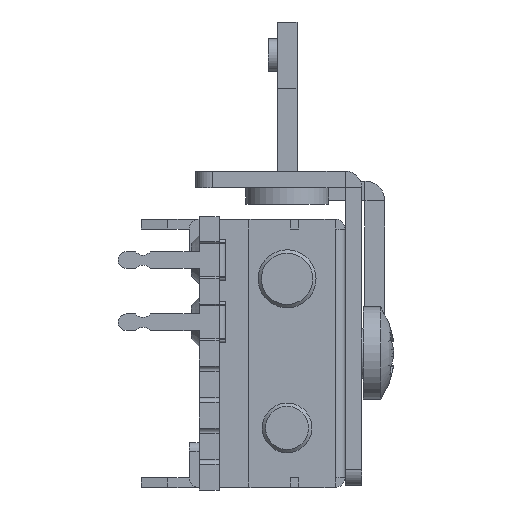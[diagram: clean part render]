
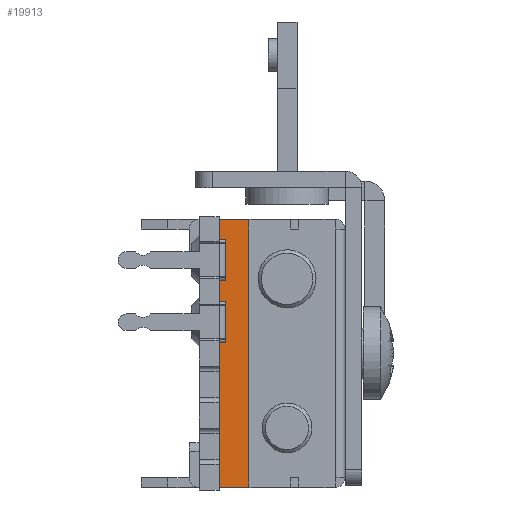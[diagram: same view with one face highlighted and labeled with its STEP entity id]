
A CAD part, left-side view. The second image highlights one B-rep face of the part: STEP entity #19913.
In plain terms, the highlighted planar face has unit normal (-1, 0, 0).
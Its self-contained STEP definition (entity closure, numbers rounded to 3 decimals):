
#264 = PLANE('',#265);
#265 = AXIS2_PLACEMENT_3D('',#266,#267,#268);
#266 = CARTESIAN_POINT('',(63.6,-3.5,-2.9));
#267 = DIRECTION('',(0.,0.,1.));
#268 = DIRECTION('',(-1.,0.,0.));
#320 = PLANE('',#321);
#321 = AXIS2_PLACEMENT_3D('',#322,#323,#324);
#322 = CARTESIAN_POINT('',(-63.6,-3.5,-19.1));
#323 = DIRECTION('',(0.,0.,-1.));
#324 = DIRECTION('',(1.,0.,0.));
#3762 = VERTEX_POINT('',#3763);
#3763 = CARTESIAN_POINT('',(-58.45,2.3,
    -19.1));
#3776 = PLANE('',#3777);
#3777 = AXIS2_PLACEMENT_3D('',#3778,#3779,#3780);
#3778 = CARTESIAN_POINT('',(-67.457,2.3,
    1.6));
#3779 = DIRECTION('',(0.,-1.,0.));
#3780 = DIRECTION('',(1.,0.,0.));
#3787 = EDGE_CURVE('',#3788,#3762,#3790,.T.);
#3788 = VERTEX_POINT('',#3789);
#3789 = CARTESIAN_POINT('',(-58.45,4.1,
    -19.1));
#3790 = SURFACE_CURVE('',#3791,(#3795,#3801),.PCURVE_S1.);
#3791 = LINE('',#3792,#3793);
#3792 = CARTESIAN_POINT('',(-58.45,-0.6,
    -19.1));
#3793 = VECTOR('',#3794,1.);
#3794 = DIRECTION('',(0.,-1.,0.));
#3795 = PCURVE('',#320,#3796);
#3796 = DEFINITIONAL_REPRESENTATION('',(#3797),#3800);
#3797 = B_SPLINE_CURVE_WITH_KNOTS('',1,(#3798,#3799),.UNSPECIFIED.,.F.,
  .F.,(2,2),(-9.4,-2.9),.PIECEWISE_BEZIER_KNOTS.);
#3798 = CARTESIAN_POINT('',(5.15,-12.3));
#3799 = CARTESIAN_POINT('',(5.15,-5.8));
#3800 = ( GEOMETRIC_REPRESENTATION_CONTEXT(2) 
PARAMETRIC_REPRESENTATION_CONTEXT() REPRESENTATION_CONTEXT('2D SPACE',''
  ) );
#3801 = PCURVE('',#3802,#3807);
#3802 = PLANE('',#3803);
#3803 = AXIS2_PLACEMENT_3D('',#3804,#3805,#3806);
#3804 = CARTESIAN_POINT('',(-58.45,3.2,-11.));
#3805 = DIRECTION('',(-1.,0.,-0.));
#3806 = DIRECTION('',(0.,1.,0.));
#3807 = DEFINITIONAL_REPRESENTATION('',(#3808),#3812);
#3808 = LINE('',#3809,#3810);
#3809 = CARTESIAN_POINT('',(-3.8,8.1));
#3810 = VECTOR('',#3811,1.);
#3811 = DIRECTION('',(-1.,0.));
#3812 = ( GEOMETRIC_REPRESENTATION_CONTEXT(2) 
PARAMETRIC_REPRESENTATION_CONTEXT() REPRESENTATION_CONTEXT('2D SPACE',''
  ) );
#3829 = PLANE('',#3830);
#3830 = AXIS2_PLACEMENT_3D('',#3831,#3832,#3833);
#3831 = CARTESIAN_POINT('',(0.,4.1,-11.));
#3832 = DIRECTION('',(0.,-1.,0.));
#3833 = DIRECTION('',(1.,0.,0.));
#5792 = PLANE('',#5793);
#5793 = AXIS2_PLACEMENT_3D('',#5794,#5795,#5796);
#5794 = CARTESIAN_POINT('',(0.,2.3,-11.));
#5795 = DIRECTION('',(0.,1.,0.));
#5796 = DIRECTION('',(1.,0.,0.));
#7692 = VERTEX_POINT('',#7693);
#7693 = CARTESIAN_POINT('',(-58.45,4.1,
    -2.9));
#7713 = EDGE_CURVE('',#7714,#7692,#7716,.T.);
#7714 = VERTEX_POINT('',#7715);
#7715 = CARTESIAN_POINT('',(-58.45,2.3,
    -2.9));
#7716 = SURFACE_CURVE('',#7717,(#7721,#7727),.PCURVE_S1.);
#7717 = LINE('',#7718,#7719);
#7718 = CARTESIAN_POINT('',(-58.45,-0.6,
    -2.9));
#7719 = VECTOR('',#7720,1.);
#7720 = DIRECTION('',(0.,1.,0.));
#7721 = PCURVE('',#264,#7722);
#7722 = DEFINITIONAL_REPRESENTATION('',(#7723),#7726);
#7723 = B_SPLINE_CURVE_WITH_KNOTS('',1,(#7724,#7725),.UNSPECIFIED.,.F.,
  .F.,(2,2),(2.9,9.4),.PIECEWISE_BEZIER_KNOTS.);
#7724 = CARTESIAN_POINT('',(122.05,-5.8));
#7725 = CARTESIAN_POINT('',(122.05,-12.3));
#7726 = ( GEOMETRIC_REPRESENTATION_CONTEXT(2) 
PARAMETRIC_REPRESENTATION_CONTEXT() REPRESENTATION_CONTEXT('2D SPACE',''
  ) );
#7727 = PCURVE('',#3802,#7728);
#7728 = DEFINITIONAL_REPRESENTATION('',(#7729),#7733);
#7729 = LINE('',#7730,#7731);
#7730 = CARTESIAN_POINT('',(-3.8,-8.1));
#7731 = VECTOR('',#7732,1.);
#7732 = DIRECTION('',(1.,0.));
#7733 = ( GEOMETRIC_REPRESENTATION_CONTEXT(2) 
PARAMETRIC_REPRESENTATION_CONTEXT() REPRESENTATION_CONTEXT('2D SPACE',''
  ) );
#7750 = PLANE('',#7751);
#7751 = AXIS2_PLACEMENT_3D('',#7752,#7753,#7754);
#7752 = CARTESIAN_POINT('',(-67.457,2.3,
    1.6));
#7753 = DIRECTION('',(0.,-1.,0.));
#7754 = DIRECTION('',(1.,0.,0.));
#18592 = EDGE_CURVE('',#3788,#7692,#18593,.T.);
#18593 = SURFACE_CURVE('',#18594,(#18598,#18605),.PCURVE_S1.);
#18594 = LINE('',#18595,#18596);
#18595 = CARTESIAN_POINT('',(-58.45,4.1,
    10.35));
#18596 = VECTOR('',#18597,1.);
#18597 = DIRECTION('',(0.,0.,1.));
#18598 = PCURVE('',#3829,#18599);
#18599 = DEFINITIONAL_REPRESENTATION('',(#18600),#18604);
#18600 = LINE('',#18601,#18602);
#18601 = CARTESIAN_POINT('',(-58.45,21.35));
#18602 = VECTOR('',#18603,1.);
#18603 = DIRECTION('',(0.,1.));
#18604 = ( GEOMETRIC_REPRESENTATION_CONTEXT(2) 
PARAMETRIC_REPRESENTATION_CONTEXT() REPRESENTATION_CONTEXT('2D SPACE',''
  ) );
#18605 = PCURVE('',#3802,#18606);
#18606 = DEFINITIONAL_REPRESENTATION('',(#18607),#18611);
#18607 = LINE('',#18608,#18609);
#18608 = CARTESIAN_POINT('',(0.9,-21.35));
#18609 = VECTOR('',#18610,1.);
#18610 = DIRECTION('',(0.,-1.));
#18611 = ( GEOMETRIC_REPRESENTATION_CONTEXT(2) 
PARAMETRIC_REPRESENTATION_CONTEXT() REPRESENTATION_CONTEXT('2D SPACE',''
  ) );
#19913 = ADVANCED_FACE('',(#19914),#3802,.T.);
#19914 = FACE_BOUND('',#19915,.T.);
#19915 = EDGE_LOOP('',(#19916,#19917,#19918,#19941,#19964,#19985));
#19916 = ORIENTED_EDGE('',*,*,#18592,.F.);
#19917 = ORIENTED_EDGE('',*,*,#3787,.T.);
#19918 = ORIENTED_EDGE('',*,*,#19919,.F.);
#19919 = EDGE_CURVE('',#19920,#3762,#19922,.T.);
#19920 = VERTEX_POINT('',#19921);
#19921 = CARTESIAN_POINT('',(-58.45,2.3,-18.5));
#19922 = SURFACE_CURVE('',#19923,(#19927,#19934),.PCURVE_S1.);
#19923 = LINE('',#19924,#19925);
#19924 = CARTESIAN_POINT('',(-58.45,2.3,
    1.6));
#19925 = VECTOR('',#19926,1.);
#19926 = DIRECTION('',(0.,0.,-1.));
#19927 = PCURVE('',#3802,#19928);
#19928 = DEFINITIONAL_REPRESENTATION('',(#19929),#19933);
#19929 = LINE('',#19930,#19931);
#19930 = CARTESIAN_POINT('',(-0.9,-12.6));
#19931 = VECTOR('',#19932,1.);
#19932 = DIRECTION('',(0.,1.));
#19933 = ( GEOMETRIC_REPRESENTATION_CONTEXT(2) 
PARAMETRIC_REPRESENTATION_CONTEXT() REPRESENTATION_CONTEXT('2D SPACE',''
  ) );
#19934 = PCURVE('',#3776,#19935);
#19935 = DEFINITIONAL_REPRESENTATION('',(#19936),#19940);
#19936 = LINE('',#19937,#19938);
#19937 = CARTESIAN_POINT('',(9.007,0.));
#19938 = VECTOR('',#19939,1.);
#19939 = DIRECTION('',(0.,-1.));
#19940 = ( GEOMETRIC_REPRESENTATION_CONTEXT(2) 
PARAMETRIC_REPRESENTATION_CONTEXT() REPRESENTATION_CONTEXT('2D SPACE',''
  ) );
#19941 = ORIENTED_EDGE('',*,*,#19942,.T.);
#19942 = EDGE_CURVE('',#19920,#19943,#19945,.T.);
#19943 = VERTEX_POINT('',#19944);
#19944 = CARTESIAN_POINT('',(-58.45,2.3,-3.5));
#19945 = SURFACE_CURVE('',#19946,(#19950,#19957),.PCURVE_S1.);
#19946 = LINE('',#19947,#19948);
#19947 = CARTESIAN_POINT('',(-58.45,2.3,-18.5));
#19948 = VECTOR('',#19949,1.);
#19949 = DIRECTION('',(0.,0.,1.));
#19950 = PCURVE('',#3802,#19951);
#19951 = DEFINITIONAL_REPRESENTATION('',(#19952),#19956);
#19952 = LINE('',#19953,#19954);
#19953 = CARTESIAN_POINT('',(-0.9,7.5));
#19954 = VECTOR('',#19955,1.);
#19955 = DIRECTION('',(0.,-1.));
#19956 = ( GEOMETRIC_REPRESENTATION_CONTEXT(2) 
PARAMETRIC_REPRESENTATION_CONTEXT() REPRESENTATION_CONTEXT('2D SPACE',''
  ) );
#19957 = PCURVE('',#5792,#19958);
#19958 = DEFINITIONAL_REPRESENTATION('',(#19959),#19963);
#19959 = LINE('',#19960,#19961);
#19960 = CARTESIAN_POINT('',(-58.45,7.5));
#19961 = VECTOR('',#19962,1.);
#19962 = DIRECTION('',(0.,-1.));
#19963 = ( GEOMETRIC_REPRESENTATION_CONTEXT(2) 
PARAMETRIC_REPRESENTATION_CONTEXT() REPRESENTATION_CONTEXT('2D SPACE',''
  ) );
#19964 = ORIENTED_EDGE('',*,*,#19965,.F.);
#19965 = EDGE_CURVE('',#7714,#19943,#19966,.T.);
#19966 = SURFACE_CURVE('',#19967,(#19971,#19978),.PCURVE_S1.);
#19967 = LINE('',#19968,#19969);
#19968 = CARTESIAN_POINT('',(-58.45,2.3,
    1.6));
#19969 = VECTOR('',#19970,1.);
#19970 = DIRECTION('',(0.,0.,-1.));
#19971 = PCURVE('',#3802,#19972);
#19972 = DEFINITIONAL_REPRESENTATION('',(#19973),#19977);
#19973 = LINE('',#19974,#19975);
#19974 = CARTESIAN_POINT('',(-0.9,-12.6));
#19975 = VECTOR('',#19976,1.);
#19976 = DIRECTION('',(0.,1.));
#19977 = ( GEOMETRIC_REPRESENTATION_CONTEXT(2) 
PARAMETRIC_REPRESENTATION_CONTEXT() REPRESENTATION_CONTEXT('2D SPACE',''
  ) );
#19978 = PCURVE('',#7750,#19979);
#19979 = DEFINITIONAL_REPRESENTATION('',(#19980),#19984);
#19980 = LINE('',#19981,#19982);
#19981 = CARTESIAN_POINT('',(9.007,0.));
#19982 = VECTOR('',#19983,1.);
#19983 = DIRECTION('',(0.,-1.));
#19984 = ( GEOMETRIC_REPRESENTATION_CONTEXT(2) 
PARAMETRIC_REPRESENTATION_CONTEXT() REPRESENTATION_CONTEXT('2D SPACE',''
  ) );
#19985 = ORIENTED_EDGE('',*,*,#7713,.T.);
